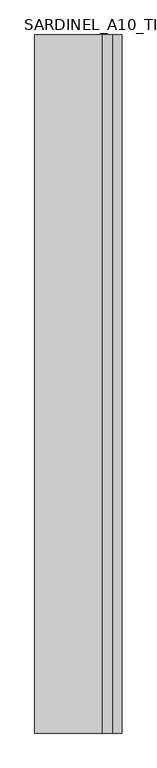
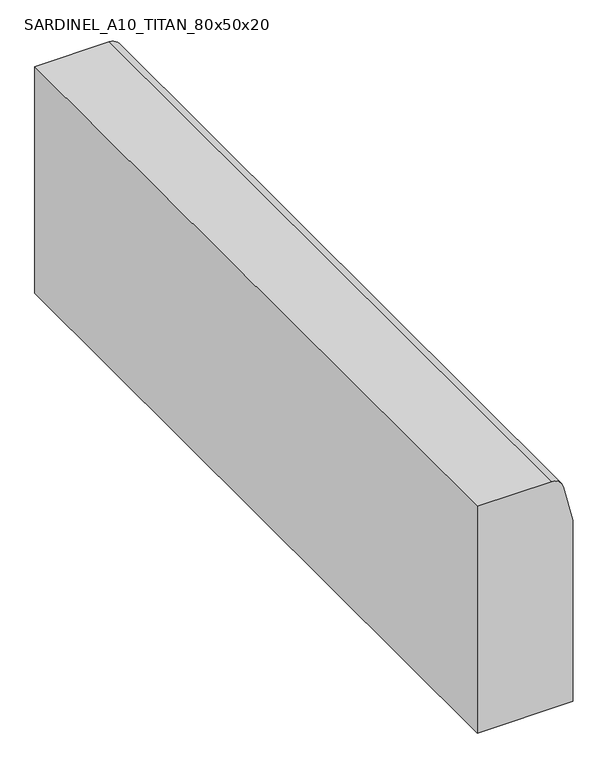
"""IFC4 building model written with IfcOpenShell, lengths in millimetres: railing geometry, SARDINEL_A10_TITAN_80x50x20."""

from ifc_helpers import new_model, si_unit, point, frame, frame_2d, origin, place, context, project, spatial, polyline, circle_curve, trimmed, segment, composite_curve, outline, extrude, source, transform, mapped, element, save


def sardinel_a10_titan_80x50x20_a0165ff1(model_context):
    return source(origin(), model_context, "Body", "SweptSolid", [
        extrude(outline(composite_curve([segment(polyline([(500.0, -2843.8343252), (0.0, -2843.8343252), (0.0, -2643.8343252), (400.0, -2643.8343252), (481.0633906, -2664.1001728)]), True, "CONTINUOUS"), segment(trimmed(circle_curve(frame_2d((475.0, -2688.3537353)), 25.0), [point((481.0633906, -2664.1001728))], [point((500.0, -2688.3537353))], False, "CARTESIAN"), True, "CONTINUOUS"), segment(polyline([(500.0, -2688.3537353), (500.0, -2843.8343252)]), True, "CONTINUOUS")], self_intersect=False)), frame((0.0, 3538.5861748, 0.0), z_axis=(0.0, 1.0, 0.0), x_axis=(0.0, 0.0, 1.0)), (0.0, 0.0, 1.0), 1600.0),
    ])


if __name__ == "__main__":
    model = new_model("IFC4")
    model_context = context("Model", 3, world=origin())
    ifc_project = project(units=[si_unit("LENGTHUNIT", "METRE", prefix="MILLI")], contexts=[model_context])
    site = spatial("IfcSite", under=ifc_project)
    building = spatial("IfcBuilding", under=site)
    placement = place(None, origin())
    sardinel_a10_titan_80x50x20_shape = sardinel_a10_titan_80x50x20_a0165ff1(model_context)
    element("IfcRailing", 1, ObjectType="SARDINEL_A10_TITAN_80x50x20", at=placement, inside=building, context=model_context, shape_type="MappedRepresentation", body=[
        mapped(sardinel_a10_titan_80x50x20_shape, transform((0.0, 0.0, 0.0), x_axis=(1.0, 0.0, 0.0), y_axis=(0.0, 1.0, 0.0), z_axis=(0.0, 0.0, 1.0))),
    ])
    save(model, "model.ifc")
